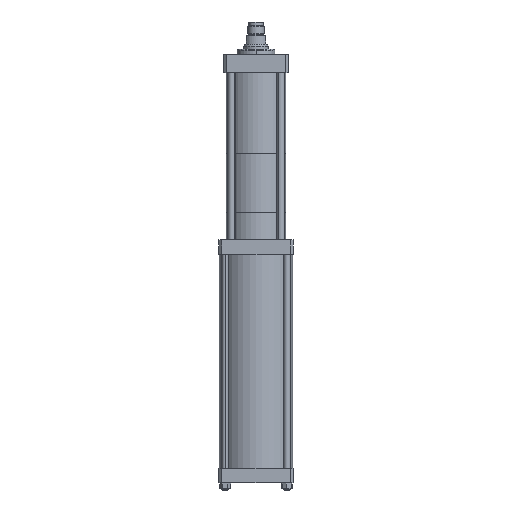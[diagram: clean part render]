
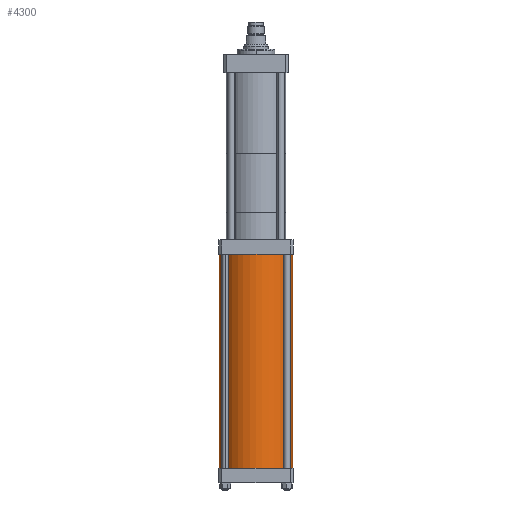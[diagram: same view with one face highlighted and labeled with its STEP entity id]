
A CAD part, front view. The second image highlights one B-rep face of the part: STEP entity #4300.
In plain terms, the highlighted cylindrical face has radius 67.5 mm (diameter 135 mm), a partial arc.
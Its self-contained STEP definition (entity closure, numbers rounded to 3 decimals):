
#257 = ORIENTED_EDGE ( 'NONE', *, *, #11381, .T. ) ;
#269 = CARTESIAN_POINT ( 'NONE',  ( 0., 0., -197.5 ) ) ;
#442 = DIRECTION ( 'NONE',  ( 0., 0., 1. ) ) ;
#763 = CARTESIAN_POINT ( 'NONE',  ( 67.5, 0., -197.5 ) ) ;
#1676 = CARTESIAN_POINT ( 'NONE',  ( -67.5, 0., 197.5 ) ) ;
#1853 = FACE_OUTER_BOUND ( 'NONE', #3263, .T. ) ;
#1939 = LINE ( 'NONE', #1676, #5607 ) ;
#3263 = EDGE_LOOP ( 'NONE', ( #9786, #17210, #257, #11897 ) ) ;
#3534 = CIRCLE ( 'NONE', #13258, 67.5 ) ;
#3742 = DIRECTION ( 'NONE',  ( 0., 0., -1. ) ) ;
#3875 = AXIS2_PLACEMENT_3D ( 'NONE', #15159, #4320, #8266 ) ;
#4300 = ADVANCED_FACE ( 'NONE', ( #1853 ), #12802, .T. ) ;
#4320 = DIRECTION ( 'NONE',  ( 0., 0., 1. ) ) ;
#5271 = VERTEX_POINT ( 'NONE', #763 ) ;
#5607 = VECTOR ( 'NONE', #12627, 1000. ) ;
#5998 = CARTESIAN_POINT ( 'NONE',  ( 0., 0., 197.5 ) ) ;
#6232 = VERTEX_POINT ( 'NONE', #17527 ) ;
#7316 = CARTESIAN_POINT ( 'NONE',  ( 67.5, 0., 197.5 ) ) ;
#8266 = DIRECTION ( 'NONE',  ( 1., 0., 0. ) ) ;
#8311 = EDGE_CURVE ( 'NONE', #16218, #5271, #3534, .T. ) ;
#8980 = CARTESIAN_POINT ( 'NONE',  ( -67.5, 0., -197.5 ) ) ;
#9524 = EDGE_CURVE ( 'NONE', #16624, #6232, #13871, .T. ) ;
#9786 = ORIENTED_EDGE ( 'NONE', *, *, #14504, .F. ) ;
#10040 = AXIS2_PLACEMENT_3D ( 'NONE', #5998, #3742, #10658 ) ;
#10658 = DIRECTION ( 'NONE',  ( -1., 0., 0. ) ) ;
#11381 = EDGE_CURVE ( 'NONE', #16624, #16218, #1939, .T. ) ;
#11638 = CARTESIAN_POINT ( 'NONE',  ( -67.5, 0., 197.5 ) ) ;
#11897 = ORIENTED_EDGE ( 'NONE', *, *, #8311, .T. ) ;
#12627 = DIRECTION ( 'NONE',  ( 0., 0., -1. ) ) ;
#12693 = LINE ( 'NONE', #7316, #17165 ) ;
#12802 = CYLINDRICAL_SURFACE ( 'NONE', #10040, 67.5 ) ;
#13258 = AXIS2_PLACEMENT_3D ( 'NONE', #269, #442, #16790 ) ;
#13871 = CIRCLE ( 'NONE', #3875, 67.5 ) ;
#14504 = EDGE_CURVE ( 'NONE', #6232, #5271, #12693, .T. ) ;
#15159 = CARTESIAN_POINT ( 'NONE',  ( 0., 0., 197.5 ) ) ;
#16218 = VERTEX_POINT ( 'NONE', #8980 ) ;
#16550 = DIRECTION ( 'NONE',  ( 0., 0., -1. ) ) ;
#16624 = VERTEX_POINT ( 'NONE', #11638 ) ;
#16790 = DIRECTION ( 'NONE',  ( 1., 0., 0. ) ) ;
#17165 = VECTOR ( 'NONE', #16550, 1000. ) ;
#17210 = ORIENTED_EDGE ( 'NONE', *, *, #9524, .F. ) ;
#17527 = CARTESIAN_POINT ( 'NONE',  ( 67.5, 0., 197.5 ) ) ;
